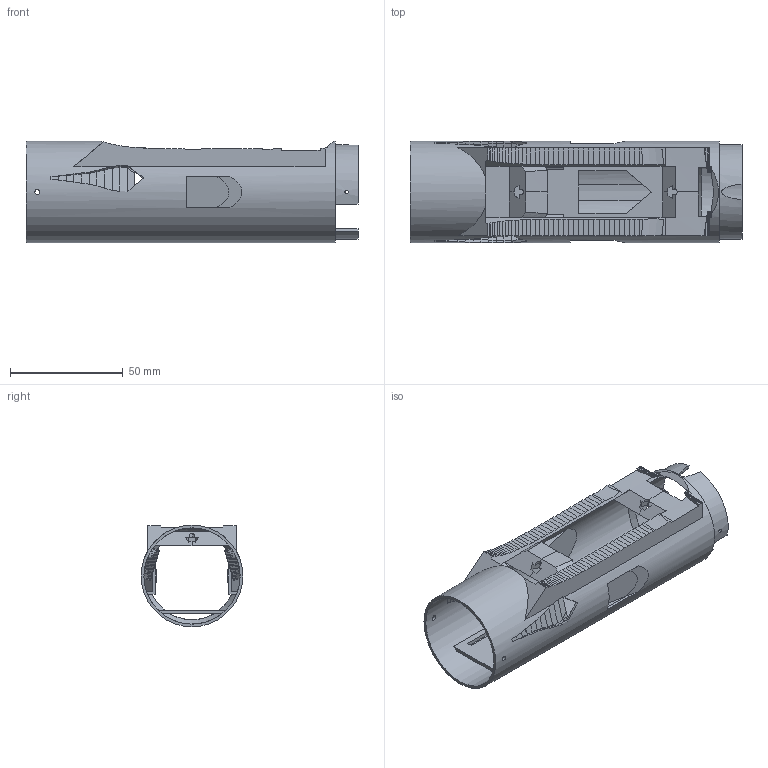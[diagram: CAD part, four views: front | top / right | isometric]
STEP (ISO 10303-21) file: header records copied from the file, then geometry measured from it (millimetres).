
FILE_DESCRIPTION(('Open CASCADE Model'),'2;1');
FILE_NAME('Open CASCADE Shape Model','2026-10-04T08:08:20',('Author'),( 'Open CASCADE'),'Open CASCADE STEP processor 7.9','Open CASCADE 7.9' ,'Unknown');
FILE_SCHEMA(('AUTOMOTIVE_DESIGN { 1 0 10303 214 1 1 1 1 }'));
Products named in the file (1): Open CASCADE STEP translator 7.9 10
Bounding box: 147 x 45 x 45 mm (x, y, z)
Volume: 35622.2 mm3; surface area: 44817.4 mm2
Topology: 1 solids, 1 shells, 584 faces, 1566 edges, 974 vertices
Faces by surface type: plane 344, bspline 186, cylinder 51, cone 3
Full cylindrical faces by diameter (mm): 1.6 x2, 2.2 x2, 38.8 x1, 42.6 x1, 45 x1
Entity records: 48952 total; most frequent: CARTESIAN_POINT 21047, DIRECTION 3980, ORIENTED_EDGE 3132, PCURVE 3132, DEFINITIONAL_REPRESENTATION 3132, LINE 2497, VECTOR 2497, B_SPLINE_CURVE_WITH_KNOTS 1734
